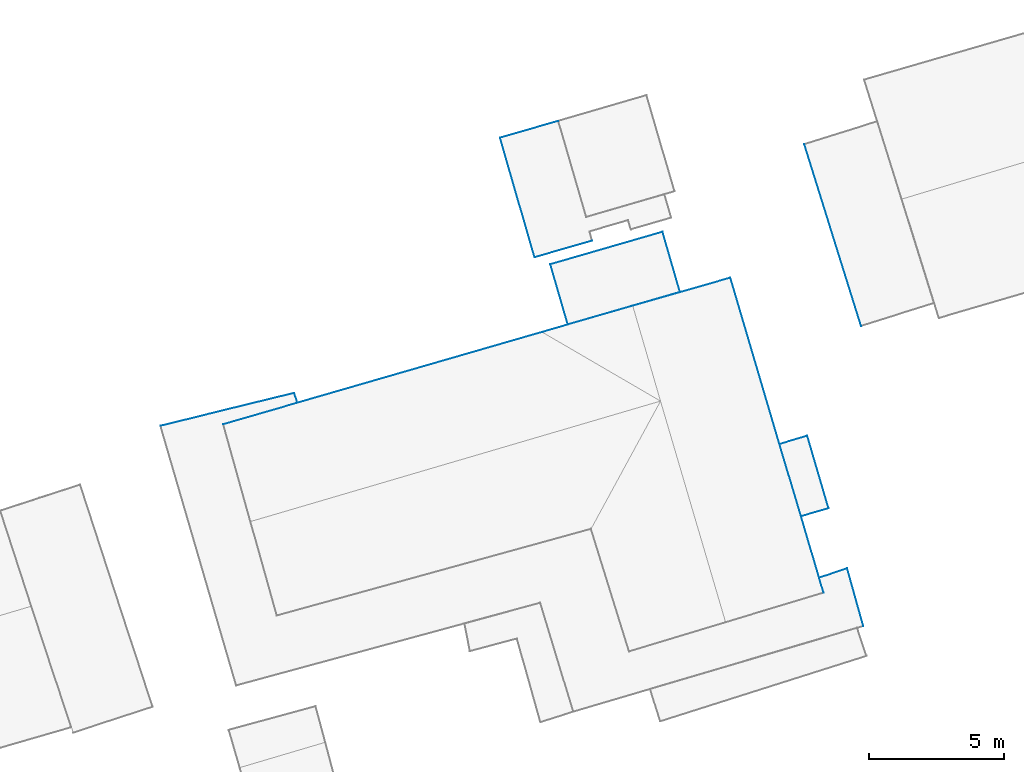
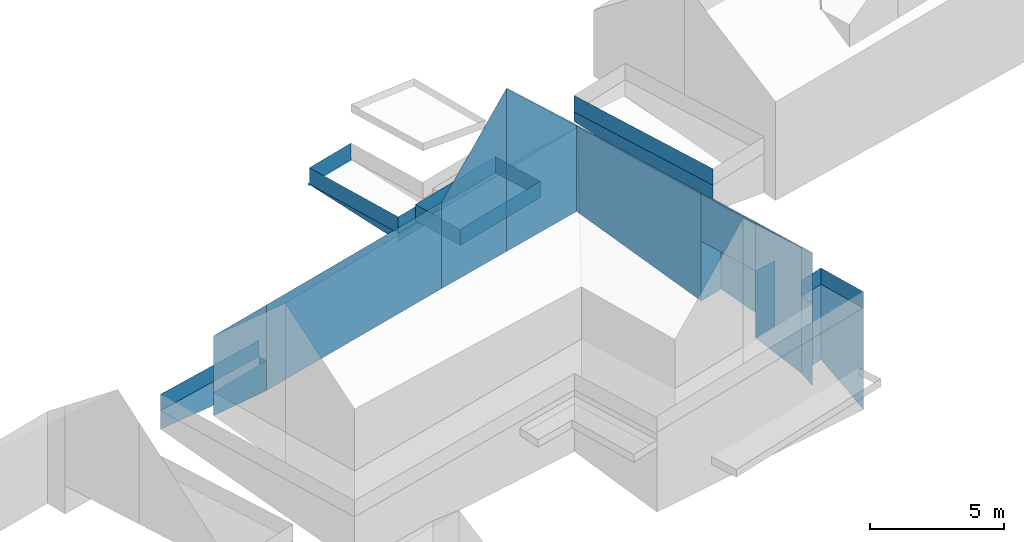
# Not in any storey, part 22 of 57: 43 walls.
"""IFC2X3 building model written with IfcOpenShell, lengths in metres."""

from ifc_helpers import new_model, entity, si_unit, converted_unit, frame, origin, place, context, subcontext, project, spatial, face_set, surface_model, element, save


model = new_model("IFC2X3")

# Units and contexts
model_context = context("Model", 3, precision=1e-05, world=origin())
body_context = subcontext(model_context, "Body", "Model", "MODEL_VIEW")
ifc_project = project(units=[converted_unit("PLANEANGLEUNIT", "DEGREE", entity("IfcRatioMeasure", 0.0174532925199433), si_unit("PLANEANGLEUNIT", "RADIAN"), dimensions=[0, 0, 0, 0, 0, 0, 0]), si_unit("AREAUNIT", "SQUARE_METRE"), si_unit("LENGTHUNIT", "METRE")], contexts=[model_context])

# Site, building
site_placement = place(None, origin())
site = spatial("IfcSite", under=ifc_project, at=site_placement, Name="_site", CompositionType="ELEMENT")
building_1_placement = place(site_placement, origin())
building_1 = spatial("IfcBuilding", under=site, at=building_1_placement, Name="_building", CompositionType="ELEMENT")

# Walls
wall_1_placement = place(building_1_placement, origin())
element("IfcWall", 1, at=wall_1_placement, inside=building_1, Name="Wall", context=body_context, shape_type="SurfaceModel", body=[
    surface_model("IfcFaceBasedSurfaceModel", [(166.311, 143.631, 118.257), (167.348, 143.976, 118.257), (167.348, 143.976, 114.833), (166.311, 143.631, 114.772)], [face_set([[[0, 1, 2, 3]]])]),
])
wall_2_placement = place(building_1_placement, origin())
element("IfcWall", 2, at=wall_2_placement, inside=building_1, Name="Wall", context=body_context, shape_type="SurfaceModel", body=[
    surface_model("IfcFaceBasedSurfaceModel", [(166.476, 143.076, 118.249), (166.311, 143.631, 118.257), (166.311, 143.631, 114.772), (166.476, 143.076, 114.467)], [face_set([[[0, 1, 2, 3]]])]),
])
wall_3_placement = place(building_1_placement, origin())
element("IfcWall", 3, at=wall_3_placement, inside=building_1, Name="Wall", context=body_context, shape_type="SurfaceModel", body=[
    surface_model("IfcFaceBasedSurfaceModel", [(147.0, 150.104, 118.198), (144.258, 149.309, 118.198), (144.258, 149.309, 117.124), (147.0, 150.104, 116.834)], [face_set([[[0, 1, 2, 3]]])]),
])
wall_4_placement = place(building_1_placement, origin())
element("IfcWall", 4, at=wall_4_placement, inside=building_1, Name="Wall", context=body_context, shape_type="SurfaceModel", body=[
    surface_model("IfcFaceBasedSurfaceModel", [(146.887, 150.468, 118.198), (147.0, 150.104, 118.198), (147.0, 150.104, 116.834), (146.887, 150.468, 116.903)], [face_set([[[0, 1, 2, 3]]])]),
])
wall_5_placement = place(building_1_placement, origin())
element("IfcWall", 5, at=wall_5_placement, inside=building_1, Name="Wall", context=body_context, shape_type="SurfaceModel", body=[
    surface_model("IfcFaceBasedSurfaceModel", [(141.935, 149.254, 118.198), (146.887, 150.468, 118.198), (146.887, 150.468, 116.903), (141.935, 149.254, 117.355)], [face_set([[[0, 1, 2, 3]]])]),
])
wall_6_placement = place(building_1_placement, origin())
element("IfcWall", 6, at=wall_6_placement, inside=building_1, Name="Wall", context=body_context, shape_type="SurfaceModel", body=[
    surface_model("IfcFaceBasedSurfaceModel", [(167.348, 143.976, 118.257), (167.948, 141.84, 118.257), (167.948, 141.84, 113.633), (167.348, 143.976, 114.833)], [face_set([[[0, 1, 2, 3]]])]),
])
wall_7_placement = place(building_1_placement, origin())
element("IfcWall", 7, at=wall_7_placement, inside=building_1, Name="Wall", context=body_context, shape_type="SurfaceModel", body=[
    surface_model("IfcFaceBasedSurfaceModel", [(167.348, 143.976, 118.257), (166.311, 143.631, 118.257), (166.311, 143.631, 119.007), (167.348, 143.976, 119.007)], [face_set([[[0, 1, 2, 3]]])]),
])
wall_8_placement = place(building_1_placement, origin())
element("IfcWall", 8, at=wall_8_placement, inside=building_1, Name="Wall", context=body_context, shape_type="SurfaceModel", body=[
    surface_model("IfcFaceBasedSurfaceModel", [(167.948, 141.84, 118.257), (167.348, 143.976, 118.257), (167.348, 143.976, 119.007), (167.948, 141.84, 119.007)], [face_set([[[0, 1, 2, 3]]])]),
])
wall_9_placement = place(building_1_placement, origin())
element("IfcWall", 9, at=wall_9_placement, inside=building_1, Name="Wall", context=body_context, shape_type="SurfaceModel", body=[
    surface_model("IfcFaceBasedSurfaceModel", [(146.887, 150.468, 118.198), (141.935, 149.254, 118.198), (141.935, 149.254, 118.948), (146.887, 150.468, 118.948)], [face_set([[[0, 1, 2, 3]]])]),
])
wall_10_placement = place(building_1_placement, origin())
element("IfcWall", 10, at=wall_10_placement, inside=building_1, Name="Wall", context=body_context, shape_type="SurfaceModel", body=[
    surface_model("IfcFaceBasedSurfaceModel", [(167.348, 143.976, 118.257), (166.311, 143.631, 118.257), (166.311, 143.631, 119.007), (167.348, 143.976, 119.007)], [face_set([[[0, 1, 2, 3]]])]),
])
wall_11_placement = place(building_1_placement, origin())
element("IfcWall", 11, at=wall_11_placement, inside=building_1, Name="Wall", context=body_context, shape_type="SurfaceModel", body=[
    surface_model("IfcFaceBasedSurfaceModel", [(167.948, 141.84, 118.257), (167.348, 143.976, 118.257), (167.348, 143.976, 119.007), (167.948, 141.84, 119.007)], [face_set([[[0, 1, 2, 3]]])]),
])
wall_12_placement = place(building_1_placement, origin())
element("IfcWall", 12, at=wall_12_placement, inside=building_1, Name="Wall", context=body_context, shape_type="SurfaceModel", body=[
    surface_model("IfcFaceBasedSurfaceModel", [(146.887, 150.468, 118.198), (141.935, 149.254, 118.198), (141.935, 149.254, 118.948), (146.887, 150.468, 118.948)], [face_set([[[0, 1, 2, 3]]])]),
])

# Building
building_2_placement = place(site_placement, origin())
building_2 = spatial("IfcBuilding", under=site, at=building_2_placement, Name="_building", CompositionType="ELEMENT")

# Walls
wall_13_placement = place(building_2_placement, origin())
element("IfcWall", 13, at=wall_13_placement, inside=building_2, Name="Wall", context=body_context, shape_type="SurfaceModel", body=[
    surface_model("IfcFaceBasedSurfaceModel", [(164.844, 148.577, 120.52), (165.642, 145.907, 120.53), (165.642, 145.907, 118.3), (164.844, 148.577, 118.31)], [face_set([[[0, 1, 2, 3]]])]),
])
wall_14_placement = place(building_2_placement, origin())
element("IfcWall", 14, at=wall_14_placement, inside=building_2, Name="Wall", context=body_context, shape_type="SurfaceModel", body=[
    surface_model("IfcFaceBasedSurfaceModel", [(159.41, 153.697, 124.08), (163.027, 154.733, 120.51), (163.027, 154.733, 116.564), (159.41, 153.697, 116.636)], [face_set([[[0, 1, 2, 3]]])]),
])
wall_15_placement = place(building_2_placement, origin())
element("IfcWall", 15, at=wall_15_placement, inside=building_2, Name="Wall", context=body_context, shape_type="SurfaceModel", body=[
    surface_model("IfcFaceBasedSurfaceModel", [(166.311, 143.631, 120.53), (166.476, 143.076, 120.53), (166.476, 143.076, 114.467), (166.311, 143.631, 114.772)], [face_set([[[0, 1, 2, 3]]])]),
])
wall_16_placement = place(building_2_placement, origin())
element("IfcWall", 16, at=wall_16_placement, inside=building_2, Name="Wall", context=body_context, shape_type="SurfaceModel", body=[
    surface_model("IfcFaceBasedSurfaceModel", [(156.055, 152.725, 120.64), (159.41, 153.697, 124.08), (159.41, 153.697, 116.636), (156.055, 152.725, 116.709)], [face_set([[[0, 1, 2, 3]]])]),
])
wall_17_placement = place(building_2_placement, origin())
element("IfcWall", 17, at=wall_17_placement, inside=building_2, Name="Wall", context=body_context, shape_type="SurfaceModel", body=[
    surface_model("IfcFaceBasedSurfaceModel", [(147.0, 150.104, 120.732), (156.055, 152.725, 120.64), (156.055, 152.725, 116.709), (147.0, 150.104, 116.834)], [face_set([[[0, 1, 2, 3]]])]),
])
wall_18_placement = place(building_2_placement, origin())
element("IfcWall", 18, at=wall_18_placement, inside=building_2, Name="Wall", context=body_context, shape_type="SurfaceModel", body=[
    surface_model("IfcFaceBasedSurfaceModel", [(144.258, 149.309, 120.76), (147.0, 150.104, 120.732), (147.0, 150.104, 116.834), (144.258, 149.309, 117.124)], [face_set([[[0, 1, 2, 3]]])]),
])
wall_19_placement = place(building_2_placement, origin())
element("IfcWall", 19, at=wall_19_placement, inside=building_2, Name="Wall", context=body_context, shape_type="SurfaceModel", body=[
    surface_model("IfcFaceBasedSurfaceModel", [(166.659, 146.203, 118.24), (165.642, 145.907, 118.3), (165.642, 145.907, 115.239), (166.659, 146.203, 115.247)], [face_set([[[0, 1, 2, 3]]])]),
])
wall_20_placement = place(building_2_placement, origin())
element("IfcWall", 20, at=wall_20_placement, inside=building_2, Name="Wall", context=body_context, shape_type="SurfaceModel", body=[
    surface_model("IfcFaceBasedSurfaceModel", [(165.872, 148.883, 118.24), (166.659, 146.203, 118.24), (166.659, 146.203, 115.247), (165.872, 148.883, 115.586)], [face_set([[[0, 1, 2, 3]]])]),
])
wall_21_placement = place(building_2_placement, origin())
element("IfcWall", 21, at=wall_21_placement, inside=building_2, Name="Wall", context=body_context, shape_type="SurfaceModel", body=[
    surface_model("IfcFaceBasedSurfaceModel", [(164.844, 148.577, 118.31), (165.872, 148.883, 118.24), (165.872, 148.883, 115.586), (164.844, 148.577, 115.58)], [face_set([[[0, 1, 2, 3]]])]),
])
wall_22_placement = place(building_2_placement, origin())
element("IfcWall", 22, at=wall_22_placement, inside=building_2, Name="Wall", context=body_context, shape_type="SurfaceModel", body=[
    surface_model("IfcFaceBasedSurfaceModel", [(163.027, 154.733, 120.51), (164.844, 148.577, 120.52), (164.844, 148.577, 115.58), (163.027, 154.733, 116.564)], [face_set([[[0, 1, 2, 3]]])]),
])
wall_23_placement = place(building_2_placement, origin())
element("IfcWall", 23, at=wall_23_placement, inside=building_2, Name="Wall", context=body_context, shape_type="SurfaceModel", body=[
    surface_model("IfcFaceBasedSurfaceModel", [(165.642, 145.907, 120.53), (166.311, 143.631, 120.53), (166.311, 143.631, 114.772), (165.642, 145.907, 115.239)], [face_set([[[0, 1, 2, 3]]])]),
])
wall_24_placement = place(building_2_placement, origin())
element("IfcWall", 24, at=wall_24_placement, inside=building_2, Name="Wall", context=body_context, shape_type="SurfaceModel", body=[
    surface_model("IfcFaceBasedSurfaceModel", [(161.163, 154.207, 118.17), (157.013, 153.003, 118.17), (157.013, 153.003, 118.92), (161.163, 154.207, 118.92)], [face_set([[[0, 1, 2, 3]]])]),
])
wall_25_placement = place(building_2_placement, origin())
element("IfcWall", 25, at=wall_25_placement, inside=building_2, Name="Wall", context=body_context, shape_type="SurfaceModel", body=[
    surface_model("IfcFaceBasedSurfaceModel", [(160.515, 156.433, 118.17), (161.163, 154.207, 118.17), (161.163, 154.207, 118.92), (160.515, 156.433, 118.92)], [face_set([[[0, 1, 2, 3]]])]),
])
wall_26_placement = place(building_2_placement, origin())
element("IfcWall", 26, at=wall_26_placement, inside=building_2, Name="Wall", context=body_context, shape_type="SurfaceModel", body=[
    surface_model("IfcFaceBasedSurfaceModel", [(156.364, 155.229, 118.17), (160.515, 156.433, 118.17), (160.515, 156.433, 118.92), (156.364, 155.229, 118.92)], [face_set([[[0, 1, 2, 3]]])]),
])
wall_27_placement = place(building_2_placement, origin())
element("IfcWall", 27, at=wall_27_placement, inside=building_2, Name="Wall", context=body_context, shape_type="SurfaceModel", body=[
    surface_model("IfcFaceBasedSurfaceModel", [(157.013, 153.003, 118.17), (156.364, 155.229, 118.17), (156.364, 155.229, 118.92), (157.013, 153.003, 118.92)], [face_set([[[0, 1, 2, 3]]])]),
])
wall_28_placement = place(building_2_placement, origin())
element("IfcWall", 28, at=wall_28_placement, inside=building_2, Name="Wall", context=body_context, shape_type="SurfaceModel", body=[
    surface_model("IfcFaceBasedSurfaceModel", [(161.163, 154.207, 118.17), (157.013, 153.003, 118.17), (157.013, 153.003, 118.92), (161.163, 154.207, 118.92)], [face_set([[[0, 1, 2, 3]]])]),
])
wall_29_placement = place(building_2_placement, origin())
element("IfcWall", 29, at=wall_29_placement, inside=building_2, Name="Wall", context=body_context, shape_type="SurfaceModel", body=[
    surface_model("IfcFaceBasedSurfaceModel", [(160.515, 156.433, 118.17), (161.163, 154.207, 118.17), (161.163, 154.207, 118.92), (160.515, 156.433, 118.92)], [face_set([[[0, 1, 2, 3]]])]),
])
wall_30_placement = place(building_2_placement, origin())
element("IfcWall", 30, at=wall_30_placement, inside=building_2, Name="Wall", context=body_context, shape_type="SurfaceModel", body=[
    surface_model("IfcFaceBasedSurfaceModel", [(156.364, 155.229, 118.17), (160.515, 156.433, 118.17), (160.515, 156.433, 118.92), (156.364, 155.229, 118.92)], [face_set([[[0, 1, 2, 3]]])]),
])
wall_31_placement = place(building_2_placement, origin())
element("IfcWall", 31, at=wall_31_placement, inside=building_2, Name="Wall", context=body_context, shape_type="SurfaceModel", body=[
    surface_model("IfcFaceBasedSurfaceModel", [(157.013, 153.003, 118.17), (156.364, 155.229, 118.17), (156.364, 155.229, 118.92), (157.013, 153.003, 118.92)], [face_set([[[0, 1, 2, 3]]])]),
])

# Building
building_3_placement = place(site_placement, origin())
building_3 = spatial("IfcBuilding", under=site, at=building_3_placement, Name="_building", CompositionType="ELEMENT")

# Walls
wall_32_placement = place(building_3_placement, origin())
element("IfcWall", 32, at=wall_32_placement, inside=building_3, Name="Wall", context=body_context, shape_type="SurfaceModel", body=[
    surface_model("IfcFaceBasedSurfaceModel", [(167.868, 152.949, 117.155), (165.764, 159.672, 117.155), (165.764, 159.672, 116.726), (167.868, 152.949, 115.947)], [face_set([[[0, 1, 2, 3]]])]),
])
for number, where, name in (
    (33, (0.0, 0.0, 0.0), "Wall"),
    (34, (0.0, 0.0, 0.0), "Wall"),
):
    element("IfcWall", number, at=place(building_3_placement, frame(where)), inside=building_3, Name=name, context=body_context, shape_type="SurfaceModel", body=[
        surface_model("IfcFaceBasedSurfaceModel", [(167.868, 152.949, 117.155), (165.764, 159.672, 117.155), (165.764, 159.672, 117.905), (167.868, 152.949, 117.905)], [face_set([[[0, 1, 2, 3]]])]),
    ])

# Building
building_4_placement = place(site_placement, origin())
building_4 = spatial("IfcBuilding", under=site, at=building_4_placement, Name="_building", CompositionType="ELEMENT")

# Walls
wall_33_placement = place(building_4_placement, origin())
element("IfcWall", 35, at=wall_33_placement, inside=building_4, Name="Wall", context=body_context, shape_type="SurfaceModel", body=[
    surface_model("IfcFaceBasedSurfaceModel", [(154.503, 159.916, 117.65), (156.659, 160.536, 117.65), (156.659, 160.536, 117.635), (154.503, 159.916, 117.635)], [face_set([[[0, 1, 2, 3]]])]),
])
wall_34_placement = place(building_4_placement, origin())
element("IfcWall", 36, at=wall_34_placement, inside=building_4, Name="Wall", context=body_context, shape_type="SurfaceModel", body=[
    surface_model("IfcFaceBasedSurfaceModel", [(157.906, 156.104, 117.65), (155.78, 155.493, 117.65), (155.78, 155.493, 117.294), (157.906, 156.104, 117.294)], [face_set([[[0, 1, 2, 3]]])]),
])
wall_35_placement = place(building_4_placement, origin())
element("IfcWall", 37, at=wall_35_placement, inside=building_4, Name="Wall", context=body_context, shape_type="SurfaceModel", body=[
    surface_model("IfcFaceBasedSurfaceModel", [(155.78, 155.493, 117.65), (154.503, 159.916, 117.65), (154.503, 159.916, 117.635), (155.78, 155.493, 117.294)], [face_set([[[0, 1, 2, 3]]])]),
])
wall_36_placement = place(building_4_placement, origin())
element("IfcWall", 38, at=wall_36_placement, inside=building_4, Name="Wall", context=body_context, shape_type="SurfaceModel", body=[
    surface_model("IfcFaceBasedSurfaceModel", [(154.503, 159.916, 117.65), (156.659, 160.536, 117.65), (156.659, 160.536, 118.4), (154.503, 159.916, 118.4)], [face_set([[[0, 1, 2, 3]]])]),
])
wall_37_placement = place(building_4_placement, origin())
element("IfcWall", 39, at=wall_37_placement, inside=building_4, Name="Wall", context=body_context, shape_type="SurfaceModel", body=[
    surface_model("IfcFaceBasedSurfaceModel", [(155.78, 155.493, 117.65), (154.503, 159.916, 117.65), (154.503, 159.916, 118.4), (155.78, 155.493, 118.4)], [face_set([[[0, 1, 2, 3]]])]),
])
wall_38_placement = place(building_4_placement, origin())
element("IfcWall", 40, at=wall_38_placement, inside=building_4, Name="Wall", context=body_context, shape_type="SurfaceModel", body=[
    surface_model("IfcFaceBasedSurfaceModel", [(157.906, 156.104, 117.65), (155.78, 155.493, 117.65), (155.78, 155.493, 118.4), (157.906, 156.104, 118.4)], [face_set([[[0, 1, 2, 3]]])]),
])
wall_39_placement = place(building_4_placement, origin())
element("IfcWall", 41, at=wall_39_placement, inside=building_4, Name="Wall", context=body_context, shape_type="SurfaceModel", body=[
    surface_model("IfcFaceBasedSurfaceModel", [(154.503, 159.916, 117.65), (156.659, 160.536, 117.65), (156.659, 160.536, 118.4), (154.503, 159.916, 118.4)], [face_set([[[0, 1, 2, 3]]])]),
])
wall_40_placement = place(building_4_placement, origin())
element("IfcWall", 42, at=wall_40_placement, inside=building_4, Name="Wall", context=body_context, shape_type="SurfaceModel", body=[
    surface_model("IfcFaceBasedSurfaceModel", [(155.78, 155.493, 117.65), (154.503, 159.916, 117.65), (154.503, 159.916, 118.4), (155.78, 155.493, 118.4)], [face_set([[[0, 1, 2, 3]]])]),
])
wall_41_placement = place(building_4_placement, origin())
element("IfcWall", 43, at=wall_41_placement, inside=building_4, Name="Wall", context=body_context, shape_type="SurfaceModel", body=[
    surface_model("IfcFaceBasedSurfaceModel", [(157.906, 156.104, 117.65), (155.78, 155.493, 117.65), (155.78, 155.493, 118.4), (157.906, 156.104, 118.4)], [face_set([[[0, 1, 2, 3]]])]),
])

save(model, "model.ifc")
